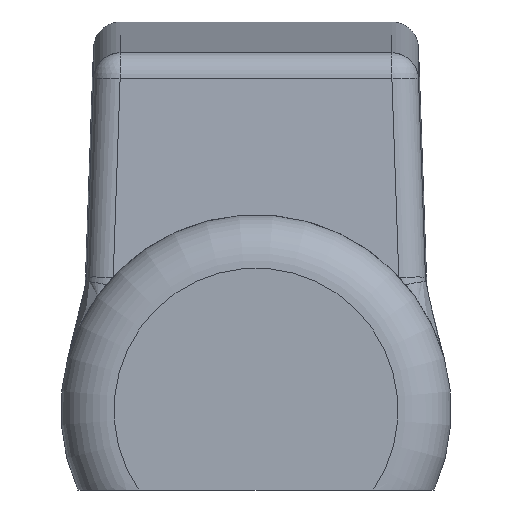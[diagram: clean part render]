
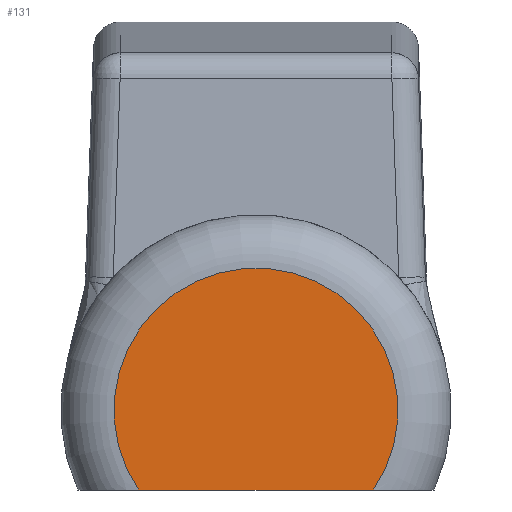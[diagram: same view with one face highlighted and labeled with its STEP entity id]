
A CAD part, front view. The second image highlights one B-rep face of the part: STEP entity #131.
In plain terms, the highlighted planar face has unit normal (0, -1, 0).
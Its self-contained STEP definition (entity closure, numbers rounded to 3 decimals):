
#97=CIRCLE('',#622,8.);
#131=ADVANCED_FACE('',(#175),#142,.T.);
#142=PLANE('',#623);
#175=FACE_OUTER_BOUND('',#212,.T.);
#212=EDGE_LOOP('',(#382,#383));
#382=ORIENTED_EDGE('',*,*,#444,.T.);
#383=ORIENTED_EDGE('',*,*,#517,.T.);
#398=VERTEX_POINT('',#806);
#399=VERTEX_POINT('',#808);
#444=EDGE_CURVE('',#399,#398,#521,.T.);
#517=EDGE_CURVE('',#398,#399,#97,.T.);
#521=LINE('',#807,#544);
#544=VECTOR('',#632,1.);
#622=AXIS2_PLACEMENT_3D('',#1134,#765,#766);
#623=AXIS2_PLACEMENT_3D('',#1135,#767,#768);
#632=DIRECTION('',(1.,0.,0.));
#765=DIRECTION('',(0.,-1.,0.));
#766=DIRECTION('',(0.,0.,-1.));
#767=DIRECTION('',(0.,-1.,0.));
#768=DIRECTION('',(0.,0.,-1.));
#806=CARTESIAN_POINT('',(-23.386,-87.389,-4.5));
#807=CARTESIAN_POINT('',(-40.037,-87.389,-4.5));
#808=CARTESIAN_POINT('',(-36.614,-87.389,-4.5));
#1134=CARTESIAN_POINT('',(-30.,-87.389,0.));
#1135=CARTESIAN_POINT('',(-30.,-87.389,0.));
